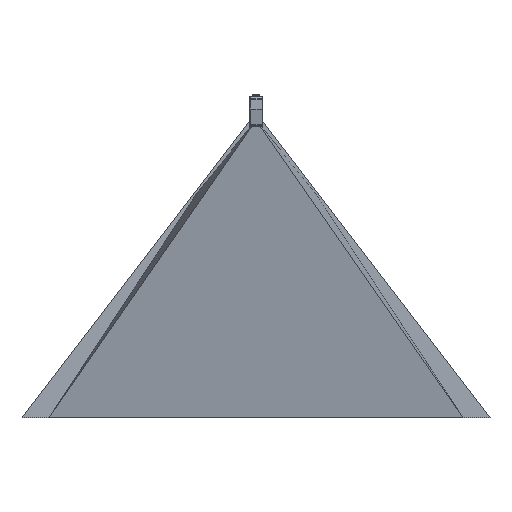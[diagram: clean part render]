
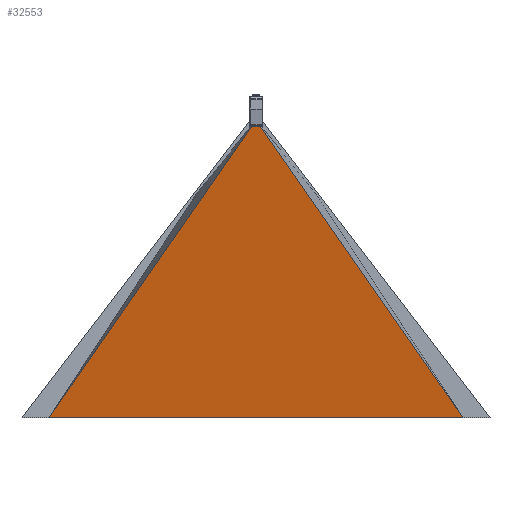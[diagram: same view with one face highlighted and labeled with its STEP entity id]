
A CAD part, left-side view. The second image highlights one B-rep face of the part: STEP entity #32553.
In plain terms, the highlighted planar face has unit normal (-0.986, 0, -0.169) as drawn and (0.092, -0.996, 0) by its records, which use the part's own axes.
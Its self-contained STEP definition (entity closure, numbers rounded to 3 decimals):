
#2764=PLANE('',#35788);
#4426=LINE('',#51628,#6867);
#4429=LINE('',#51634,#6870);
#4433=LINE('',#51655,#6874);
#4434=LINE('',#51657,#6875);
#6867=VECTOR('',#42313,10.);
#6870=VECTOR('',#42318,10.);
#6874=VECTOR('',#42324,10.);
#6875=VECTOR('',#42327,1753.348);
#9721=FACE_OUTER_BOUND('',#11809,.T.);
#11809=EDGE_LOOP('',(#26770,#26771,#26772,#26773));
#16052=VERTEX_POINT('',#51625);
#16053=VERTEX_POINT('',#51627);
#16054=VERTEX_POINT('',#51631);
#16055=VERTEX_POINT('',#51633);
#19885=EDGE_CURVE('',#16052,#16053,#4426,.T.);
#19888=EDGE_CURVE('',#16055,#16054,#4429,.T.);
#19892=EDGE_CURVE('',#16055,#16052,#4433,.T.);
#19893=EDGE_CURVE('',#16054,#16053,#4434,.T.);
#26770=ORIENTED_EDGE('',*,*,#19888,.T.);
#26771=ORIENTED_EDGE('',*,*,#19893,.T.);
#26772=ORIENTED_EDGE('',*,*,#19885,.F.);
#26773=ORIENTED_EDGE('',*,*,#19892,.F.);
#32553=ADVANCED_FACE('',(#9721),#2764,.T.);
#35788=AXIS2_PLACEMENT_3D('',#51656,#42325,#42326);
#42313=DIRECTION('',(0.,0.,-1.));
#42318=DIRECTION('',(0.,0.,-1.));
#42324=DIRECTION('',(0.821,0.076,-0.566));
#42325=DIRECTION('center_axis',(0.092,-0.996,0.));
#42326=DIRECTION('ref_axis',(0.,0.,-1.));
#42327=DIRECTION('',(0.821,0.076,0.566));
#51625=CARTESIAN_POINT('',(0.,-8.16,13.763));
#51627=CARTESIAN_POINT('',(0.,-8.16,-13.763));
#51628=CARTESIAN_POINT('',(0.,-8.16,-13.763));
#51631=CARTESIAN_POINT('',(-1439.8,-141.056,-1005.5));
#51633=CARTESIAN_POINT('',(-1439.8,-141.056,1005.5));
#51634=CARTESIAN_POINT('',(-1439.8,-141.056,1005.5));
#51655=CARTESIAN_POINT('',(-1439.8,-141.056,1005.5));
#51656=CARTESIAN_POINT('Origin',(-1439.8,-141.056,1005.5));
#51657=CARTESIAN_POINT('',(-1439.8,-141.056,-1005.5));
